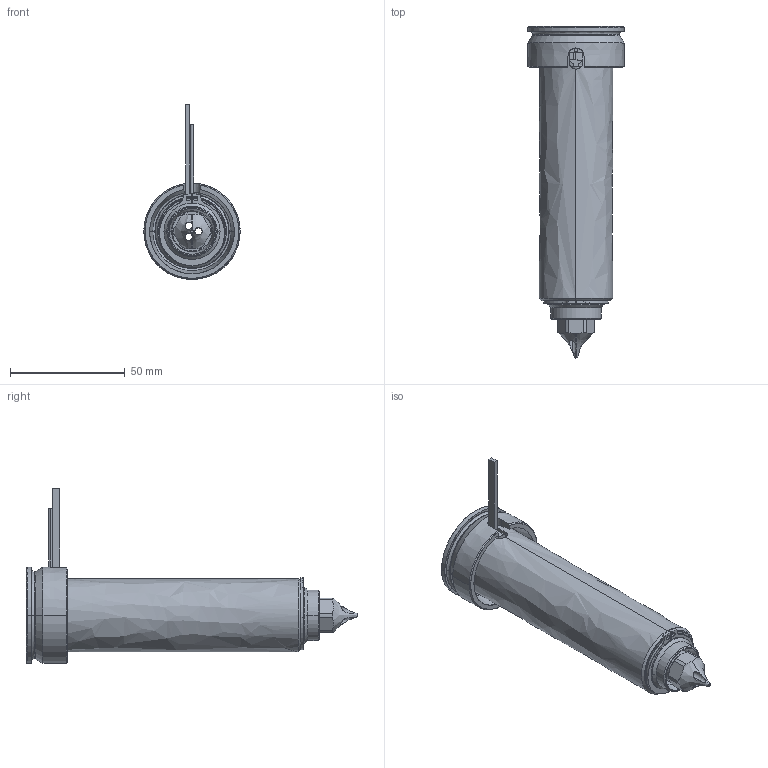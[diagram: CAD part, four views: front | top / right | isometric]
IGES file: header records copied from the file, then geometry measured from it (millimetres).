
Start section: SolidWorks IGES file using analytic representation for surfaces
Global section: file name: C:\Users\luca.EMPAD\Desktop\TEM\UGDL3614-M-A-1 [Øf=1.3 ØC=10].IGS; native system: SolidWorks 2012; preprocessor: SolidWorks 2012; author: luca; date: 120330.160550; units: millimetre
Bounding box: 42 x 144.8 x 76.3 mm (x, y, z)
Surface area: 46928 mm2 (no closed solid volume)
Topology: 0 solids, 0 shells, 128 faces, 2264 edges, 2264 vertices
Faces by surface type: revolution 79, bspline 49
